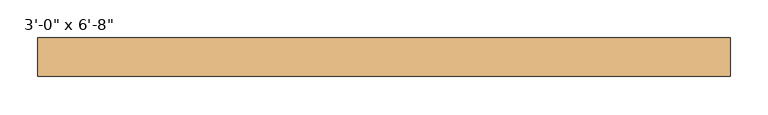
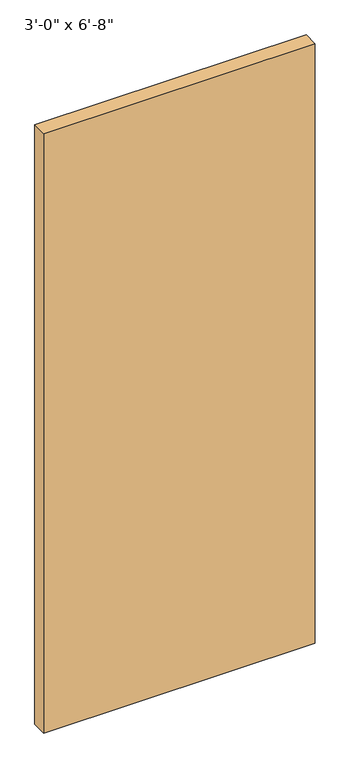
"""IFC4 building model written with IfcOpenShell, lengths in millimetres: door geometry."""

from ifc_helpers import new_model, si_unit, origin, origin_with_axes, place, context, project, spatial, polyline, outline, extrude, source, transform, mapped, element, save


def door_0ab8a7aa(model_context):
    return source(origin(), model_context, "Body", "SweptSolid", [
        extrude(outline(polyline([(457.2, -6.15), (457.2, -57.15), (-457.2, -57.15), (-457.2, -6.15), (457.2, -6.15)])), origin_with_axes(), (0.0, 0.0, 1.0), 2133.6),
    ])


if __name__ == "__main__":
    model = new_model("IFC4")
    model_context = context("Model", 3, world=origin())
    ifc_project = project(units=[si_unit("LENGTHUNIT", "METRE", prefix="MILLI")], contexts=[model_context])
    site = spatial("IfcSite", under=ifc_project)
    building = spatial("IfcBuilding", under=site)
    placement = place(None, origin())
    door_shape = door_0ab8a7aa(model_context)
    element("IfcDoor", 1, ObjectType="Planitar - Single Door_Flush Panel : 3'-0\" x 6'-8\"", at=placement, inside=building, context=model_context, shape_type="MappedRepresentation", body=[
        mapped(door_shape, transform((0.0, 0.0, 0.0), x_axis=(1.0, 0.0, 0.0), y_axis=(0.0, 1.0, 0.0), z_axis=(0.0, 0.0, 1.0))),
    ])
    save(model, "model.ifc")
